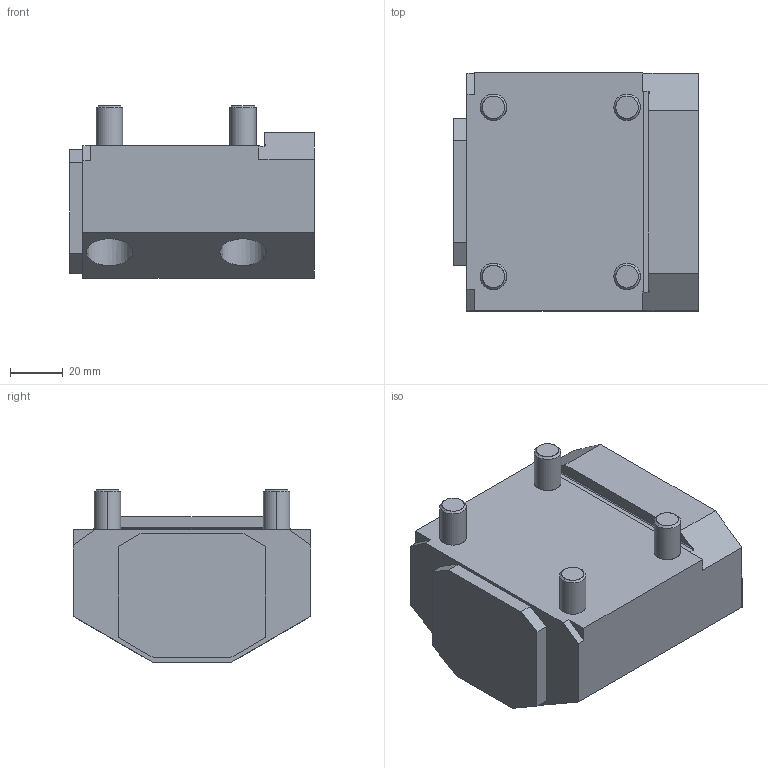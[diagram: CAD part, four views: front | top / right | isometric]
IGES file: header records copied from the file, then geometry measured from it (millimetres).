
Start section: SolidWorks IGES file using analytic representation for surfaces
Global section: file name: C:\Working Directory\Command Haas Block Tools\STEP Models and Drawings\EWS-10339.IGS; native system: SolidWorks 2017; preprocessor: SolidWorks 2017; author: kthao; date: 180213.105740; units: inch
Bounding box: 92.63 x 90 x 65.17 mm (x, y, z)
Surface area: 48179.3 mm2 (no closed solid volume)
Topology: 0 solids, 0 shells, 176 faces, 2226 edges, 2218 vertices
Faces by surface type: bspline 90, revolution 86
